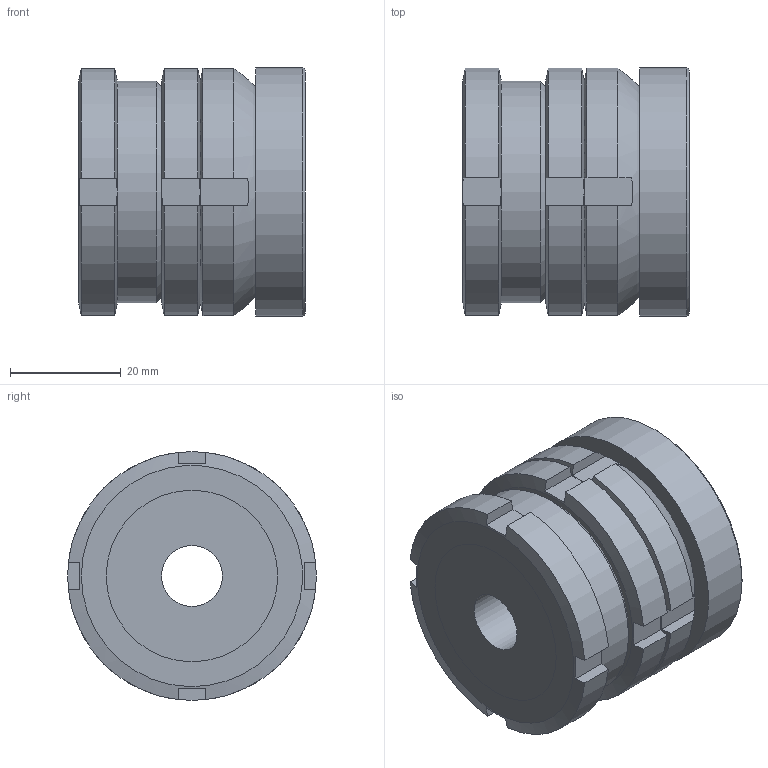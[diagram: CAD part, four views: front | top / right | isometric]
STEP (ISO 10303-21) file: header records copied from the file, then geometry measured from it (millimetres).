
FILE_DESCRIPTION( ( 'STEP AP203' ), '1' );
FILE_NAME( 'C:/Temp/Ganter_Step_05_03_2020/data/3_2/gn350_5/gn350_5_st/Levelling set GN 350.5-45-11-41-ST (0-0).stp', '2020-03-13T05:28:28', ( 'License CC BY-ND 4.0' ), ( 'CADENAS' ), ' ', 'PARTsolutions', ' ' );
FILE_SCHEMA( ( 'CONFIG_CONTROL_DESIGN' ) );
Length unit declared in the file: millimetre
Products named in the file (5): Levelling set GN 350.5-45-11-41-ST (0-0); _Levelling set GN 350.5-45-11-41-ST-G; _Levelling set GN 350.5-45-11-41-ST-K; _Levelling set GN 350.5-45-11-41-ST-P(0); _Levelling set GN 350.5-45-11-41-ST-KM
Assembly tree (4 placements, depth 2):
  Levelling set GN 350.5-45-11-41-ST (0-0)
    _Levelling set GN 350.5-45-11-41-ST-G
    _Levelling set GN 350.5-45-11-41-ST-K
    _Levelling set GN 350.5-45-11-41-ST-P(0)
    _Levelling set GN 350.5-45-11-41-ST-KM
Bounding box: 41 x 45 x 45 mm (x, y, z)
Volume: 55598 mm3; surface area: 20805.4 mm2
Topology: 4 solids, 4 shells, 85 faces, 211 edges, 140 vertices
Faces by surface type: plane 50, cylinder 24, cone 9, sphere 2
Full cylindrical faces by diameter (mm): 11 x1, 22 x1, 24.492 x1, 25.5 x1, 28.376 x1, 28.917 x1, 30 x2, 31 x2, 40 x1, 45 x1
Entity records: 2696 total; most frequent: CARTESIAN_POINT 698, DIRECTION 368, ORIENTED_EDGE 356, EDGE_CURVE 178, AXIS2_PLACEMENT_3D 160, VERTEX_POINT 130, EDGE_LOOP 122, FACE_OUTER_BOUND 99
